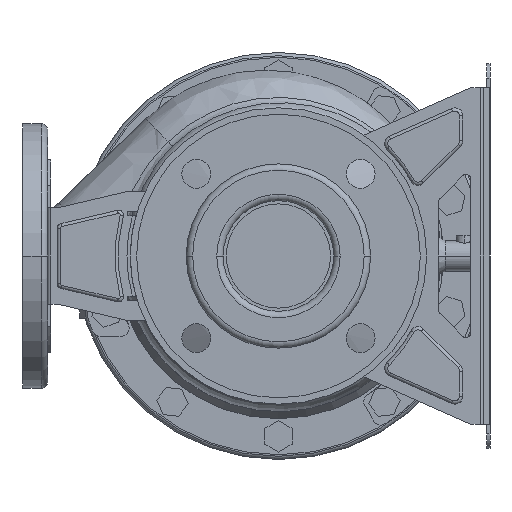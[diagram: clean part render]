
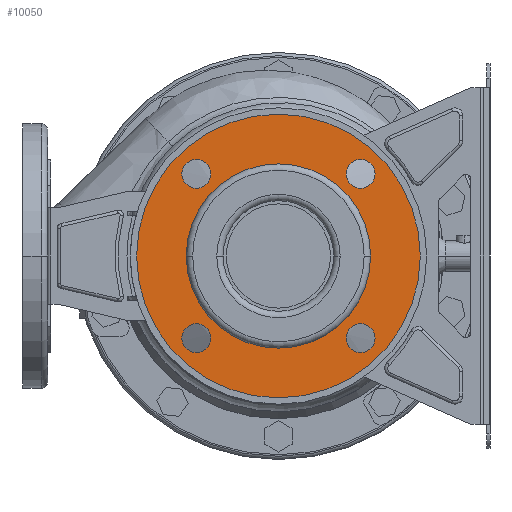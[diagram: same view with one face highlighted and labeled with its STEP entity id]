
A CAD part, left-side view. The second image highlights one B-rep face of the part: STEP entity #10050.
In plain terms, the highlighted planar face has unit normal (-1, 0, 0).
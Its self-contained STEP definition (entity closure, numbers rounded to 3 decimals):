
#9479=CARTESIAN_POINT('',(12.,0.,0.));
#9480=DIRECTION('',(-1.,0.,0.));
#9481=DIRECTION('',(0.,1.,0.));
#9482=AXIS2_PLACEMENT_3D('',#9479,#9480,#9481);
#9484=CARTESIAN_POINT('',(12.,0.,0.));
#9485=DIRECTION('',(1.,0.,0.));
#9486=DIRECTION('',(0.,1.,0.));
#9487=AXIS2_PLACEMENT_3D('',#9484,#9485,#9486);
#9489=CARTESIAN_POINT('',(12.,-51.265,51.265));
#9490=DIRECTION('',(1.,0.,0.));
#9491=DIRECTION('',(0.,1.,0.));
#9492=AXIS2_PLACEMENT_3D('',#9489,#9490,#9491);
#9494=CARTESIAN_POINT('',(12.,-51.265,51.265));
#9495=DIRECTION('',(1.,0.,0.));
#9496=DIRECTION('',(0.,-1.,0.));
#9497=AXIS2_PLACEMENT_3D('',#9494,#9495,#9496);
#9499=CARTESIAN_POINT('',(12.,-51.265,-51.265));
#9500=DIRECTION('',(1.,0.,0.));
#9501=DIRECTION('',(0.,0.,1.));
#9502=AXIS2_PLACEMENT_3D('',#9499,#9500,#9501);
#9504=CARTESIAN_POINT('',(12.,-51.265,-51.265));
#9505=DIRECTION('',(1.,0.,0.));
#9506=DIRECTION('',(0.,0.,-1.));
#9507=AXIS2_PLACEMENT_3D('',#9504,#9505,#9506);
#9509=CARTESIAN_POINT('',(12.,51.265,-51.265));
#9510=DIRECTION('',(1.,0.,0.));
#9511=DIRECTION('',(0.,-1.,0.));
#9512=AXIS2_PLACEMENT_3D('',#9509,#9510,#9511);
#9514=CARTESIAN_POINT('',(12.,51.265,-51.265));
#9515=DIRECTION('',(1.,0.,0.));
#9516=DIRECTION('',(0.,1.,0.));
#9517=AXIS2_PLACEMENT_3D('',#9514,#9515,#9516);
#9519=CARTESIAN_POINT('',(12.,51.265,51.265));
#9520=DIRECTION('',(1.,0.,0.));
#9521=DIRECTION('',(0.,0.,-1.));
#9522=AXIS2_PLACEMENT_3D('',#9519,#9520,#9521);
#9524=CARTESIAN_POINT('',(12.,51.265,51.265));
#9525=DIRECTION('',(1.,0.,0.));
#9526=DIRECTION('',(0.,0.,1.));
#9527=AXIS2_PLACEMENT_3D('',#9524,#9525,#9526);
#9529=CARTESIAN_POINT('',(12.,0.,0.));
#9530=DIRECTION('',(1.,0.,0.));
#9531=DIRECTION('',(0.,1.,0.));
#9532=AXIS2_PLACEMENT_3D('',#9529,#9530,#9531);
#9542=CARTESIAN_POINT('',(12.,0.,0.));
#9543=DIRECTION('',(-1.,0.,0.));
#9544=DIRECTION('',(0.,1.,0.));
#9545=AXIS2_PLACEMENT_3D('',#9542,#9543,#9544);
#9650=CARTESIAN_POINT('',(12.,88.5,0.));
#9652=VERTEX_POINT('',#9650);
#9653=CARTESIAN_POINT('',(12.,57.5,0.));
#9655=VERTEX_POINT('',#9653);
#9682=CARTESIAN_POINT('',(12.,-88.5,0.));
#9684=VERTEX_POINT('',#9682);
#9685=CARTESIAN_POINT('',(12.,-57.5,0.));
#9687=VERTEX_POINT('',#9685);
#9697=CARTESIAN_POINT('',(12.,-42.265,51.265));
#9698=CARTESIAN_POINT('',(12.,-60.265,51.265));
#9699=VERTEX_POINT('',#9697);
#9700=VERTEX_POINT('',#9698);
#9705=CARTESIAN_POINT('',(12.,-51.265,-42.265));
#9706=CARTESIAN_POINT('',(12.,-51.265,-60.265));
#9707=VERTEX_POINT('',#9705);
#9708=VERTEX_POINT('',#9706);
#9713=CARTESIAN_POINT('',(12.,42.265,-51.265));
#9714=CARTESIAN_POINT('',(12.,60.265,-51.265));
#9715=VERTEX_POINT('',#9713);
#9716=VERTEX_POINT('',#9714);
#9721=CARTESIAN_POINT('',(12.,51.265,42.265));
#9722=CARTESIAN_POINT('',(12.,51.265,60.265));
#9723=VERTEX_POINT('',#9721);
#9724=VERTEX_POINT('',#9722);
#10011=CARTESIAN_POINT('',(12.,0.,0.));
#10012=DIRECTION('',(1.,0.,0.));
#10013=DIRECTION('',(0.,-1.,0.));
#10014=AXIS2_PLACEMENT_3D('',#10011,#10012,#10013);
#10015=PLANE('',#10014);
#10016=ORIENTED_EDGE('',*,*,#10004,.F.);
#10017=ORIENTED_EDGE('',*,*,#9993,.T.);
#10018=EDGE_LOOP('',(#10016,#10017));
#10019=FACE_OUTER_BOUND('',#10018,.F.);
#10021=ORIENTED_EDGE('',*,*,#10020,.F.);
#10023=ORIENTED_EDGE('',*,*,#10022,.T.);
#10024=EDGE_LOOP('',(#10021,#10023));
#10025=FACE_BOUND('',#10024,.F.);
#10027=ORIENTED_EDGE('',*,*,#10026,.F.);
#10029=ORIENTED_EDGE('',*,*,#10028,.F.);
#10030=EDGE_LOOP('',(#10027,#10029));
#10031=FACE_BOUND('',#10030,.F.);
#10033=ORIENTED_EDGE('',*,*,#10032,.F.);
#10035=ORIENTED_EDGE('',*,*,#10034,.F.);
#10036=EDGE_LOOP('',(#10033,#10035));
#10037=FACE_BOUND('',#10036,.F.);
#10039=ORIENTED_EDGE('',*,*,#10038,.F.);
#10041=ORIENTED_EDGE('',*,*,#10040,.F.);
#10042=EDGE_LOOP('',(#10039,#10041));
#10043=FACE_BOUND('',#10042,.F.);
#10045=ORIENTED_EDGE('',*,*,#10044,.F.);
#10047=ORIENTED_EDGE('',*,*,#10046,.F.);
#10048=EDGE_LOOP('',(#10045,#10047));
#10049=FACE_BOUND('',#10048,.F.);
#9483=CIRCLE('',#9482,88.5);
#9488=CIRCLE('',#9487,88.5);
#9493=CIRCLE('',#9492,9.);
#9498=CIRCLE('',#9497,9.);
#9503=CIRCLE('',#9502,9.);
#9508=CIRCLE('',#9507,9.);
#9513=CIRCLE('',#9512,9.);
#9518=CIRCLE('',#9517,9.);
#9523=CIRCLE('',#9522,9.);
#9528=CIRCLE('',#9527,9.);
#9533=CIRCLE('',#9532,57.5);
#9546=CIRCLE('',#9545,57.5);
#9993=EDGE_CURVE('',#9652,#9684,#9488,.T.);
#10004=EDGE_CURVE('',#9652,#9684,#9483,.T.);
#10020=EDGE_CURVE('',#9655,#9687,#9533,.T.);
#10022=EDGE_CURVE('',#9655,#9687,#9546,.T.);
#10026=EDGE_CURVE('',#9699,#9700,#9493,.T.);
#10028=EDGE_CURVE('',#9700,#9699,#9498,.T.);
#10032=EDGE_CURVE('',#9707,#9708,#9503,.T.);
#10034=EDGE_CURVE('',#9708,#9707,#9508,.T.);
#10038=EDGE_CURVE('',#9715,#9716,#9513,.T.);
#10040=EDGE_CURVE('',#9716,#9715,#9518,.T.);
#10044=EDGE_CURVE('',#9723,#9724,#9523,.T.);
#10046=EDGE_CURVE('',#9724,#9723,#9528,.T.);
#10050=ADVANCED_FACE('',(#10019,#10025,#10031,#10037,#10043,#10049),#10015,.F.);
